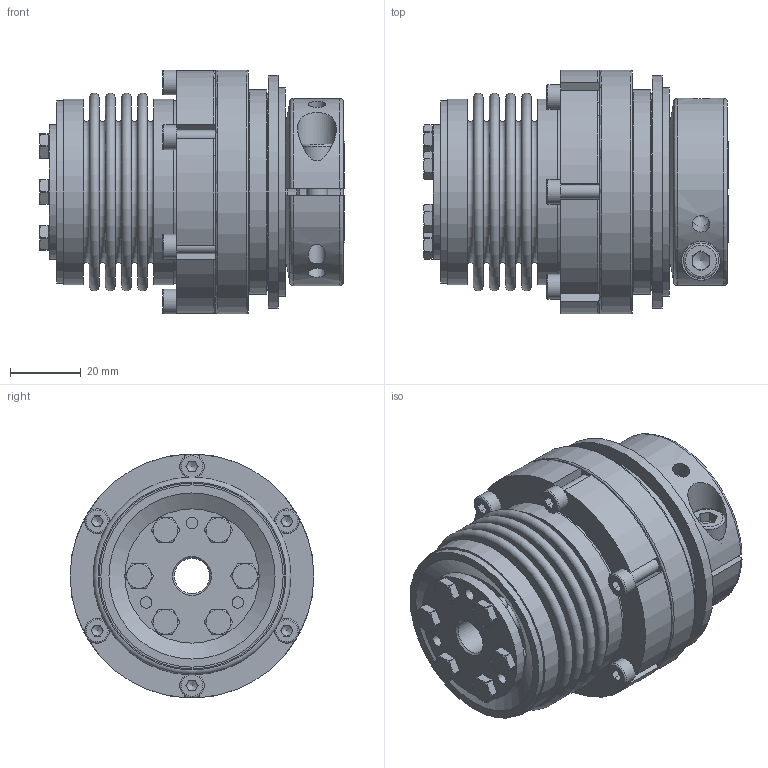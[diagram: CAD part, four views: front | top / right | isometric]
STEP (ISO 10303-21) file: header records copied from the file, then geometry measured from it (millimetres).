
FILE_DESCRIPTION( ( 'Unknown' ), '1' );
FILE_NAME( 'F:/JAKOB-STEP+IGES-Dateien/STEP-Dateien/SKB-KS/SKB-KS 45.stp', 'Unknown', ( 'Unknown' ), ( 'Unknown' ), 'PSStep 10.1', 'Unknown', ' ' );
FILE_SCHEMA( ( 'AUTOMOTIVE_DESIGN { 1 0 10303 214 1 1 1 1 }' ) );
Length unit declared in the file: millimetre
Products named in the file (1): Kug 8
Bounding box: 86.3 x 69 x 69 mm (x, y, z)
Volume: 153662 mm3; surface area: 82747.5 mm2
Topology: 1 solids, 3 shells, 609 faces, 1582 edges, 1006 vertices
Faces by surface type: plane 287, cylinder 155, torus 82, cone 37, bspline 27, sphere 12, revolution 9
Full cylindrical faces by diameter (mm): 2 x2, 3.3 x17, 4 x12, 4.3 x6, 5 x4, 5.9 x6, 6 x1, 6.5 x1, 7 x6, 10 x2, 11 x1, 14 x1, 22.5 x1, 23.5 x1, 28.6 x1, 29.8 x1, 30 x2, 35 x1, 35.1 x1, 36 x2, 38 x2, 38.2 x2, 38.893 x1, 39.293 x1, 43 x1, 47.1 x3, 51.6 x2, 52.6 x2, 55 x3, 55.8 x2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
Entity records: 23965 total; most frequent: CARTESIAN_POINT 5415, DIRECTION 2859, ORIENTED_EDGE 2612, EDGE_CURVE 1306, AXIS2_PLACEMENT_3D 1190, VERTEX_POINT 913, EDGE_LOOP 888, FACE_OUTER_BOUND 735
